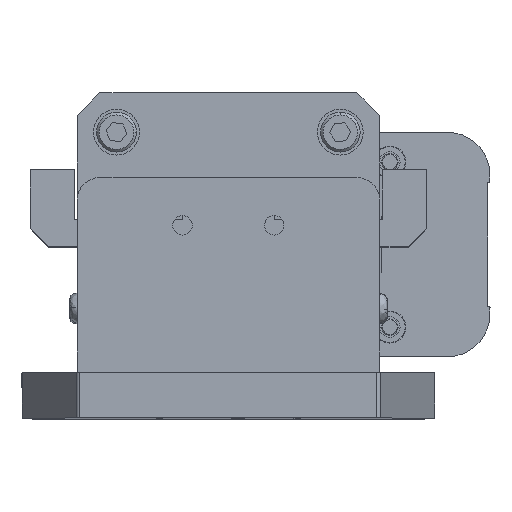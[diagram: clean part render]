
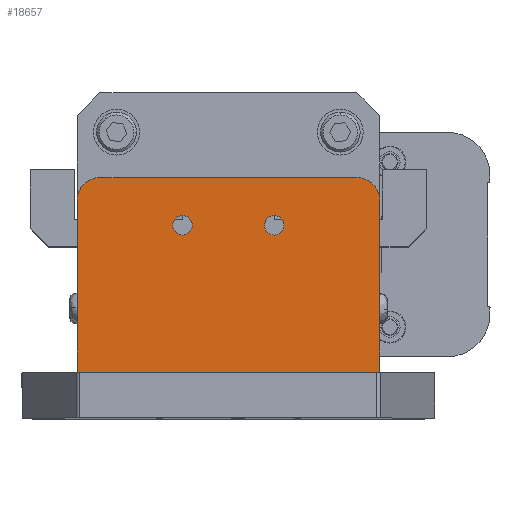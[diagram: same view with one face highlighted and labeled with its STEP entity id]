
A CAD part, top view. The second image highlights one B-rep face of the part: STEP entity #18657.
In plain terms, the highlighted planar face has unit normal (0, 0, 1).
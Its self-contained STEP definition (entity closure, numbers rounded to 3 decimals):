
#682 = VERTEX_POINT ( 'NONE', #33311 ) ;
#822 = CARTESIAN_POINT ( 'NONE',  ( 38.735, 33.274, 109.22 ) ) ;
#1330 = DIRECTION ( 'NONE',  ( 1., 0., 0. ) ) ;
#1393 = DIRECTION ( 'NONE',  ( 0., 0., 1. ) ) ;
#1436 = CARTESIAN_POINT ( 'NONE',  ( 3.175, 30.099, 109.22 ) ) ;
#2742 = VECTOR ( 'NONE', #47032, 1000. ) ;
#3525 = ORIENTED_EDGE ( 'NONE', *, *, #40590, .T. ) ;
#4076 = LINE ( 'NONE', #11310, #36570 ) ;
#4962 = CARTESIAN_POINT ( 'NONE',  ( 0., 6.35, 109.22 ) ) ;
#6762 = ORIENTED_EDGE ( 'NONE', *, *, #32502, .T. ) ;
#7555 = DIRECTION ( 'NONE',  ( -1., 0., 0. ) ) ;
#7569 = CIRCLE ( 'NONE', #9275, 1.353 ) ;
#7624 = CARTESIAN_POINT ( 'NONE',  ( 41.91, 33.274, 109.22 ) ) ;
#7750 = DIRECTION ( 'NONE',  ( 1., 0., 0. ) ) ;
#7806 = DIRECTION ( 'NONE',  ( 0., 0., -1. ) ) ;
#7813 = CARTESIAN_POINT ( 'NONE',  ( 27.305, 26.67, 109.22 ) ) ;
#8729 = DIRECTION ( 'NONE',  ( 0., -1., 0. ) ) ;
#8735 = ORIENTED_EDGE ( 'NONE', *, *, #40239, .T. ) ;
#9275 = AXIS2_PLACEMENT_3D ( 'NONE', #11098, #11085, #11032 ) ;
#9961 = AXIS2_PLACEMENT_3D ( 'NONE', #17478, #17425, #17367 ) ;
#11032 = DIRECTION ( 'NONE',  ( 1., 0., 0. ) ) ;
#11085 = DIRECTION ( 'NONE',  ( 0., 0., -1. ) ) ;
#11098 = CARTESIAN_POINT ( 'NONE',  ( 14.605, 26.67, 109.22 ) ) ;
#11310 = CARTESIAN_POINT ( 'NONE',  ( 0., 33.274, 109.22 ) ) ;
#11643 = DIRECTION ( 'NONE',  ( 1., 0., 0. ) ) ;
#11698 = DIRECTION ( 'NONE',  ( 0., 0., -1. ) ) ;
#11707 = CARTESIAN_POINT ( 'NONE',  ( 14.605, 26.67, 109.22 ) ) ;
#13092 = CARTESIAN_POINT ( 'NONE',  ( 3.175, 33.274, 109.22 ) ) ;
#13609 = CIRCLE ( 'NONE', #34220, 3.175 ) ;
#13947 = CARTESIAN_POINT ( 'NONE',  ( 41.91, 6.35, 109.22 ) ) ;
#15757 = VERTEX_POINT ( 'NONE', #13947 ) ;
#16903 = ORIENTED_EDGE ( 'NONE', *, *, #32182, .T. ) ;
#17367 = DIRECTION ( 'NONE',  ( 1., 0., 0. ) ) ;
#17397 = VERTEX_POINT ( 'NONE', #35041 ) ;
#17425 = DIRECTION ( 'NONE',  ( 0., 0., -1. ) ) ;
#17478 = CARTESIAN_POINT ( 'NONE',  ( 27.305, 26.67, 109.22 ) ) ;
#18296 = VECTOR ( 'NONE', #7555, 1000. ) ;
#18657 = ADVANCED_FACE ( 'NONE', ( #45037, #44212, #54121 ), #26314, .T. ) ;
#22249 = VERTEX_POINT ( 'NONE', #48555 ) ;
#22267 = ORIENTED_EDGE ( 'NONE', *, *, #40764, .T. ) ;
#22894 = VERTEX_POINT ( 'NONE', #31231 ) ;
#23718 = VERTEX_POINT ( 'NONE', #822 ) ;
#23788 = ORIENTED_EDGE ( 'NONE', *, *, #39815, .T. ) ;
#25946 = DIRECTION ( 'NONE',  ( 1., 0., 0. ) ) ;
#25955 = DIRECTION ( 'NONE',  ( 0., 0., 1. ) ) ;
#26122 = CARTESIAN_POINT ( 'NONE',  ( 41.91, 33.274, 109.22 ) ) ;
#26314 = PLANE ( 'NONE',  #33368 ) ;
#26350 = CIRCLE ( 'NONE', #41076, 1.353 ) ;
#28646 = ORIENTED_EDGE ( 'NONE', *, *, #40423, .T. ) ;
#28839 = EDGE_LOOP ( 'NONE', ( #6762, #23788 ) ) ;
#29804 = ORIENTED_EDGE ( 'NONE', *, *, #40002, .T. ) ;
#31012 = LINE ( 'NONE', #53528, #54434 ) ;
#31231 = CARTESIAN_POINT ( 'NONE',  ( 15.958, 26.67, 109.22 ) ) ;
#31334 = EDGE_LOOP ( 'NONE', ( #16903, #47665 ) ) ;
#32182 = EDGE_CURVE ( 'NONE', #17397, #682, #46683, .T. ) ;
#32502 = EDGE_CURVE ( 'NONE', #22894, #33623, #7569, .T. ) ;
#33210 = EDGE_LOOP ( 'NONE', ( #22267, #35449, #29804, #8735, #28646, #3525 ) ) ;
#33311 = CARTESIAN_POINT ( 'NONE',  ( 25.952, 26.67, 109.22 ) ) ;
#33368 = AXIS2_PLACEMENT_3D ( 'NONE', #26122, #25955, #25946 ) ;
#33623 = VERTEX_POINT ( 'NONE', #39115 ) ;
#34220 = AXIS2_PLACEMENT_3D ( 'NONE', #46771, #46725, #46714 ) ;
#35041 = CARTESIAN_POINT ( 'NONE',  ( 28.658, 26.67, 109.22 ) ) ;
#35449 = ORIENTED_EDGE ( 'NONE', *, *, #40769, .T. ) ;
#36305 = VERTEX_POINT ( 'NONE', #13092 ) ;
#36570 = VECTOR ( 'NONE', #8729, 1000. ) ;
#37825 = AXIS2_PLACEMENT_3D ( 'NONE', #1436, #1393, #1330 ) ;
#38753 = CIRCLE ( 'NONE', #39141, 1.353 ) ;
#39115 = CARTESIAN_POINT ( 'NONE',  ( 13.252, 26.67, 109.22 ) ) ;
#39141 = AXIS2_PLACEMENT_3D ( 'NONE', #7813, #7806, #7750 ) ;
#39815 = EDGE_CURVE ( 'NONE', #33623, #22894, #26350, .T. ) ;
#39993 = EDGE_CURVE ( 'NONE', #682, #17397, #38753, .T. ) ;
#40002 = EDGE_CURVE ( 'NONE', #23718, #36305, #46404, .T. ) ;
#40239 = EDGE_CURVE ( 'NONE', #36305, #40353, #51906, .T. ) ;
#40353 = VERTEX_POINT ( 'NONE', #45822 ) ;
#40423 = EDGE_CURVE ( 'NONE', #40353, #44121, #4076, .T. ) ;
#40590 = EDGE_CURVE ( 'NONE', #44121, #15757, #31012, .T. ) ;
#40764 = EDGE_CURVE ( 'NONE', #15757, #22249, #48384, .T. ) ;
#40769 = EDGE_CURVE ( 'NONE', #22249, #23718, #13609, .T. ) ;
#41076 = AXIS2_PLACEMENT_3D ( 'NONE', #11707, #11698, #11643 ) ;
#44121 = VERTEX_POINT ( 'NONE', #4962 ) ;
#44212 = FACE_BOUND ( 'NONE', #31334, .T. ) ;
#45037 = FACE_OUTER_BOUND ( 'NONE', #33210, .T. ) ;
#45822 = CARTESIAN_POINT ( 'NONE',  ( 0., 30.099, 109.22 ) ) ;
#46404 = LINE ( 'NONE', #7624, #18296 ) ;
#46683 = CIRCLE ( 'NONE', #9961, 1.353 ) ;
#46714 = DIRECTION ( 'NONE',  ( 1., 0., 0. ) ) ;
#46725 = DIRECTION ( 'NONE',  ( 0., 0., 1. ) ) ;
#46771 = CARTESIAN_POINT ( 'NONE',  ( 38.735, 30.099, 109.22 ) ) ;
#47032 = DIRECTION ( 'NONE',  ( 0., 1., 0. ) ) ;
#47092 = CARTESIAN_POINT ( 'NONE',  ( 41.91, 33.274, 109.22 ) ) ;
#47665 = ORIENTED_EDGE ( 'NONE', *, *, #39993, .T. ) ;
#48384 = LINE ( 'NONE', #47092, #2742 ) ;
#48555 = CARTESIAN_POINT ( 'NONE',  ( 41.91, 30.099, 109.22 ) ) ;
#51906 = CIRCLE ( 'NONE', #37825, 3.175 ) ;
#53528 = CARTESIAN_POINT ( 'NONE',  ( 41.91, 6.35, 109.22 ) ) ;
#53590 = DIRECTION ( 'NONE',  ( 1., 0., 0. ) ) ;
#54121 = FACE_BOUND ( 'NONE', #28839, .T. ) ;
#54434 = VECTOR ( 'NONE', #53590, 1000. ) ;
